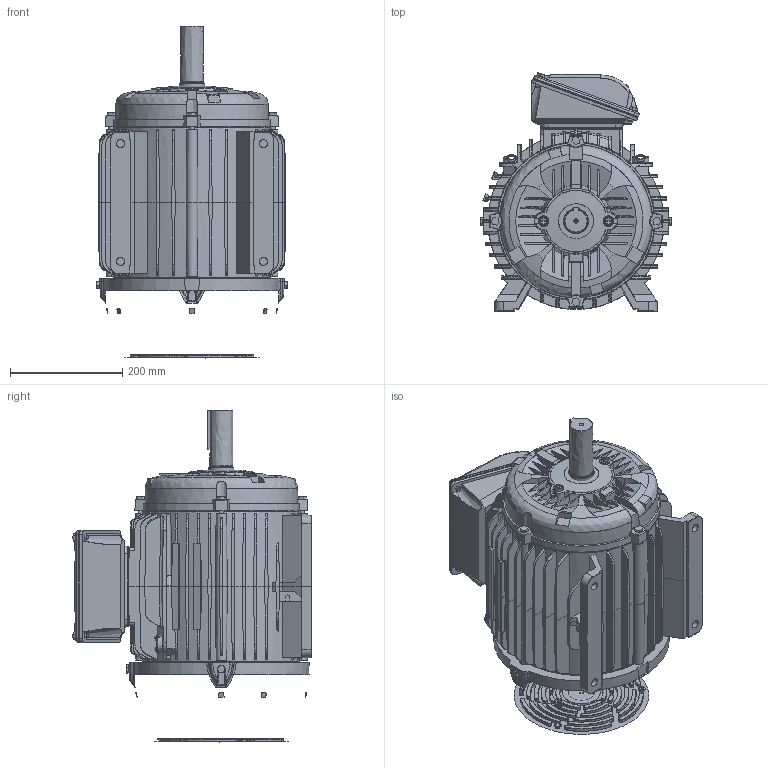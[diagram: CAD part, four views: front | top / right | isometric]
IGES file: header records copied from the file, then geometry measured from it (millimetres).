
Start section: SolidWorks IGES file using analytic representation for surfaces
Global section: file name: C:\Users\ianr\Desktop\ENC Different dimensions in 2D and 3D drawing\Alt 1\W22_GENERAL_PURPOSE\10_FRAME_254T\STANDARD\IGS\254T_TOP.IGS; native system: SolidWorks 2016; preprocessor: SolidWorks 2016; author: ianr; date: 170912.081855; units: millimetre
Bounding box: 339.2 x 424.6 x 591.6 mm (x, y, z)
Surface area: 1424275.8 mm2 (no closed solid volume)
Topology: 0 solids, 0 shells, 2226 faces, 19635 edges, 19523 vertices
Faces by surface type: revolution 1118, bspline 1108
